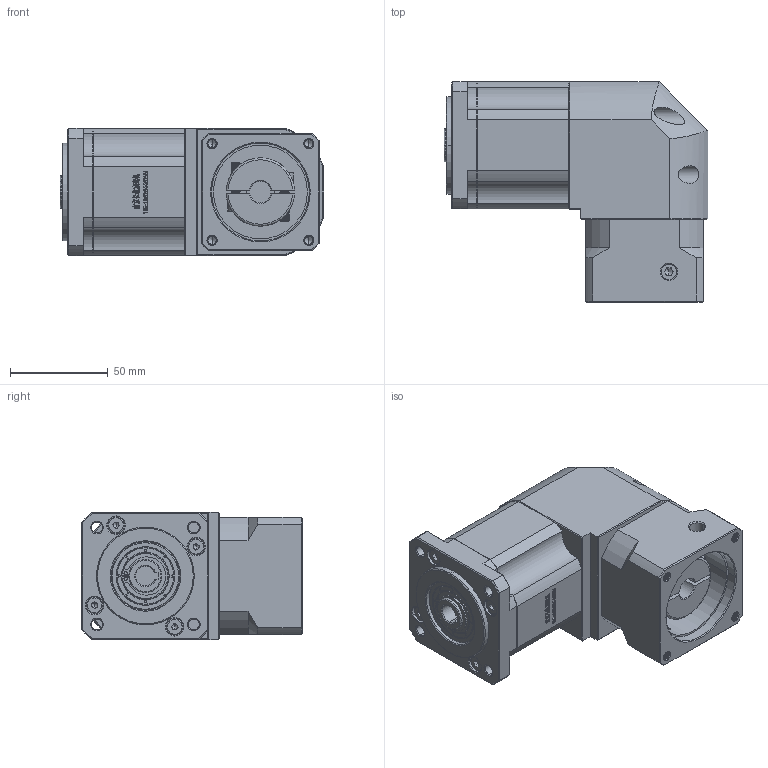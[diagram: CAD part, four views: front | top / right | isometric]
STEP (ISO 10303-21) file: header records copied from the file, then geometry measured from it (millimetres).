
FILE_DESCRIPTION (( 'STEP AP214' ), '1' );
FILE_NAME ('ZBR60-K10-L2-11-50-70-M5.STEP', '2022-04-19T08:29:32', ( '' ), ( 'Microsoft' ), 'SwSTEP 2.0', 'SolidWorks 2016', '' );
FILE_SCHEMA (( 'AUTOMOTIVE_DESIGN' ));
Length unit declared in the file: millimetre
Products named in the file (1): ZBR60-K10-L2-11-50-70-M5
Bounding box: 135 x 112.7 x 65 mm (x, y, z)
Volume: 579401.3 mm3; surface area: 80853.4 mm2
Topology: 5 solids, 5 shells, 2790 faces, 7567 edges, 4916 vertices
Faces by surface type: plane 1469, bspline 572, cylinder 393, cone 324, torus 32
Entity records: 149293 total; most frequent: CARTESIAN_POINT 52288, ORIENTED_EDGE 15078, DIRECTION 11581, EDGE_CURVE 7539, VECTOR 5007, LINE 5007, VERTEX_POINT 4916, AXIS2_PLACEMENT_3D 3287
